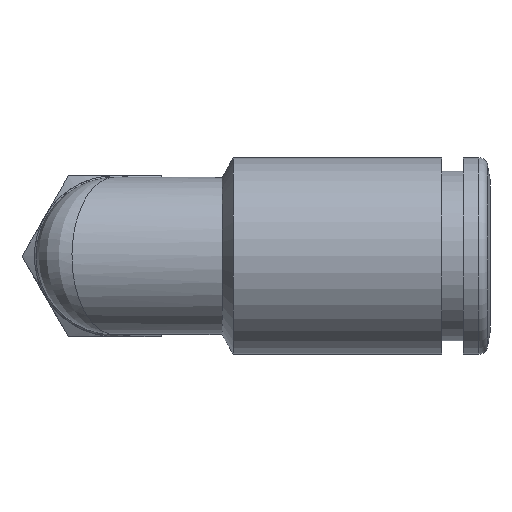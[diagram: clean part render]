
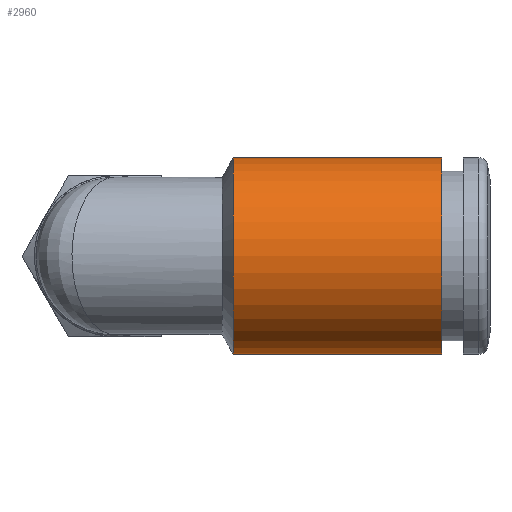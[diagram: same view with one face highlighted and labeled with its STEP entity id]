
A CAD part, top view. The second image highlights one B-rep face of the part: STEP entity #2960.
In plain terms, the highlighted cylindrical face has radius 5.5 mm (diameter 11 mm), a full revolution.
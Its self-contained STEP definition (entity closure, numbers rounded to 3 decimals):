
#2960=ADVANCED_FACE('', (#2970,#2980), #2990, .T.);
#8100=AXIS2_PLACEMENT_3D('Ax2Pl3d', #8110, #8120, #8130);
#9060=AXIS2_PLACEMENT_3D('Ax2Pl3d', #9070, #9080, #9090);
#9100=AXIS2_PLACEMENT_3D('Ax2Pl3d', #9110, #9120, #9130);
#8110=CARTESIAN_POINT('HicPkt', (27.713,10.529,
18.914));
#21750=CARTESIAN_POINT('', (27.713,10.529,24.414));
#9070=CARTESIAN_POINT('HicPkt', (16.048,10.529,
18.914));
#21890=CARTESIAN_POINT('', (16.048,10.529,24.414));
#9110=CARTESIAN_POINT('HicPkt', (16.048,10.529,
18.914));
#22460=CIRCLE('Circle', #8100, 5.5);
#22560=CIRCLE('Circle', #9060, 5.5);
#2990=CYLINDRICAL_SURFACE('Zyl', #9100, 5.5);
#8120=DIRECTION('Axis', (-1.,0.,0.))
;
#8130=DIRECTION('RefDirection', (0.,
0.,-1.));
#9080=DIRECTION('Axis', (-1.,0.,0.)
);
#9090=DIRECTION('RefDirection', (0.,
0.,-1.));
#9120=DIRECTION('Axis', (1.,0.,0.));
#9130=DIRECTION('RefDirection', (0.,0.,-1.));
#26950=EDGE_CURVE('', #26960, #26960, #22460, .T.);
#27330=EDGE_CURVE('', #27340, #27340, #22560, .T.);
#30580=EDGE_LOOP('Edge_loop', (#30590));
#30600=EDGE_LOOP('Edge_loop', (#30610));
#2980=FACE_BOUND('', #30600, .T.);
#2970=FACE_OUTER_BOUND('Face_outer_bound', #30580, .T.);
#30590=ORIENTED_EDGE('', *, *, #26950, .T.);
#30610=ORIENTED_EDGE('', *, *, #27330, .F.);
#26960=VERTEX_POINT('', #21750);
#27340=VERTEX_POINT('', #21890);
